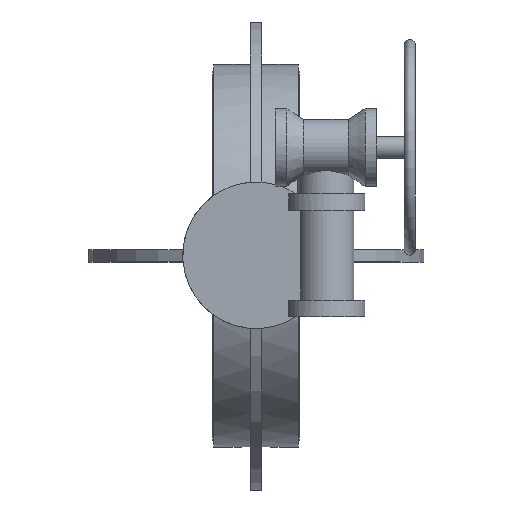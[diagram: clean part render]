
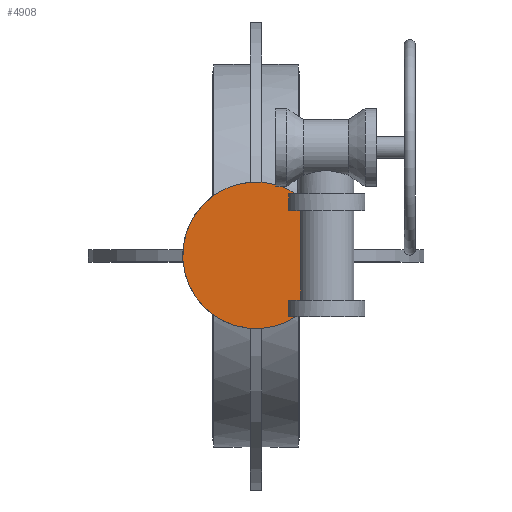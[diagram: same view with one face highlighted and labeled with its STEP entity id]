
A CAD part, top view. The second image highlights one B-rep face of the part: STEP entity #4908.
In plain terms, the highlighted planar face has unit normal (0, 0, 1).
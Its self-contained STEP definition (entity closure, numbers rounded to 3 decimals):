
#4908=ADVANCED_FACE('',(#10832),#10834,.T.);
#10832=FACE_BOUND('',#10833,.T.);
#10833=EDGE_LOOP('',(#15141,#15142,#15143,#15144,#15145,#15146,#15147,#15148,#15149,
#15150,#15151));
#10834=PLANE('',#10835);
#10835=AXIS2_PLACEMENT_3D('',#10836,#10837,#10838);
#10836=CARTESIAN_POINT('',(0.,0.,698.));
#10837=DIRECTION('',(0.,0.,1.));
#10838=DIRECTION('',(0.,-1.,0.));
#15141=ORIENTED_EDGE('',*,*,#18280,.F.);
#15142=ORIENTED_EDGE('',*,*,#18281,.F.);
#15143=ORIENTED_EDGE('',*,*,#18282,.F.);
#15144=ORIENTED_EDGE('',*,*,#17442,.F.);
#15145=ORIENTED_EDGE('',*,*,#17456,.F.);
#15146=ORIENTED_EDGE('',*,*,#17454,.F.);
#15147=ORIENTED_EDGE('',*,*,#17452,.F.);
#15148=ORIENTED_EDGE('',*,*,#17450,.F.);
#15149=ORIENTED_EDGE('',*,*,#18283,.F.);
#15150=ORIENTED_EDGE('',*,*,#18284,.F.);
#15151=ORIENTED_EDGE('',*,*,#18285,.F.);
#17442=EDGE_CURVE('',#20217,#20219,#20220,.T.);
#17450=EDGE_CURVE('',#20231,#20233,#20234,.T.);
#17452=EDGE_CURVE('',#20233,#20236,#20237,.T.);
#17454=EDGE_CURVE('',#20236,#20239,#20240,.T.);
#17456=EDGE_CURVE('',#20239,#20217,#20242,.T.);
#18280=EDGE_CURVE('',#21479,#21480,#21481,.T.);
#18281=EDGE_CURVE('',#21482,#21479,#21483,.T.);
#18282=EDGE_CURVE('',#20219,#21482,#21484,.T.);
#18283=EDGE_CURVE('',#21485,#20231,#21486,.T.);
#18284=EDGE_CURVE('',#21487,#21485,#21488,.T.);
#18285=EDGE_CURVE('',#21480,#21487,#21489,.F.);
#20217=VERTEX_POINT('',#26246);
#20219=VERTEX_POINT('',#26251);
#20220=LINE('',#26252,#26253);
#20231=VERTEX_POINT('',#26279);
#20233=VERTEX_POINT('',#26284);
#20234=LINE('',#26285,#26286);
#20236=VERTEX_POINT('',#26292);
#20237=LINE('',#26293,#26294);
#20239=VERTEX_POINT('',#26300);
#20240=LINE('',#26301,#26302);
#20242=LINE('',#26308,#26309);
#21479=VERTEX_POINT('',#29525);
#21480=VERTEX_POINT('',#29526);
#21481=LINE('',#29527,#29528);
#21482=VERTEX_POINT('',#29530);
#21483=CIRCLE('',#29531,131.);
#21484=LINE('',#29535,#29536);
#21485=VERTEX_POINT('',#29538);
#21486=LINE('',#29539,#29540);
#21487=VERTEX_POINT('',#29542);
#21488=CIRCLE('',#29543,131.);
#21489=LINE('',#29547,#29548);
#26246=CARTESIAN_POINT('',(58.224,-80.,698.));
#26251=CARTESIAN_POINT('',(58.224,-110.,698.));
#26252=CARTESIAN_POINT('',(58.224,-80.,698.));
#26253=VECTOR('',#26254,1.);
#26254=DIRECTION('',(0.,-1.,0.));
#26279=CARTESIAN_POINT('',(58.224,110.,698.));
#26284=CARTESIAN_POINT('',(58.224,80.,698.));
#26285=CARTESIAN_POINT('',(58.224,110.,698.));
#26286=VECTOR('',#26287,1.);
#26287=DIRECTION('',(0.,-1.,0.));
#26292=CARTESIAN_POINT('',(79.624,80.,698.));
#26293=CARTESIAN_POINT('',(58.224,80.,698.));
#26294=VECTOR('',#26295,1.);
#26295=DIRECTION('',(1.,0.,0.));
#26300=CARTESIAN_POINT('',(79.624,-80.,698.));
#26301=CARTESIAN_POINT('',(79.624,80.,698.));
#26302=VECTOR('',#26303,1.);
#26303=DIRECTION('',(0.,-1.,0.));
#26308=CARTESIAN_POINT('',(79.624,-80.,698.));
#26309=VECTOR('',#26310,1.);
#26310=DIRECTION('',(-1.,0.,0.));
#29525=CARTESIAN_POINT('',(35.,126.238,698.));
#29526=CARTESIAN_POINT('',(35.,123.016,698.));
#29527=CARTESIAN_POINT('',(35.,126.238,698.));
#29528=VECTOR('',#29529,1.);
#29529=DIRECTION('',(0.,-1.,0.));
#29530=CARTESIAN_POINT('',(71.141,-110.,698.));
#29531=AXIS2_PLACEMENT_3D('',#29532,#29533,#29534);
#29532=CARTESIAN_POINT('',(0.,0.,698.));
#29533=DIRECTION('',(0.,0.,-1.));
#29534=DIRECTION('',(0.543,-0.84,0.));
#29535=CARTESIAN_POINT('',(58.224,-110.,698.));
#29536=VECTOR('',#29537,1.);
#29537=DIRECTION('',(1.,0.,0.));
#29538=CARTESIAN_POINT('',(71.141,110.,698.));
#29539=CARTESIAN_POINT('',(71.141,110.,698.));
#29540=VECTOR('',#29541,1.);
#29541=DIRECTION('',(-1.,0.,0.));
#29542=CARTESIAN_POINT('',(45.034,123.016,698.));
#29543=AXIS2_PLACEMENT_3D('',#29544,#29545,#29546);
#29544=CARTESIAN_POINT('',(0.,0.,698.));
#29545=DIRECTION('',(0.,0.,-1.));
#29546=DIRECTION('',(0.344,0.939,0.));
#29547=CARTESIAN_POINT('',(45.034,123.016,698.));
#29548=VECTOR('',#29549,1.);
#29549=DIRECTION('',(-1.,0.,0.));
